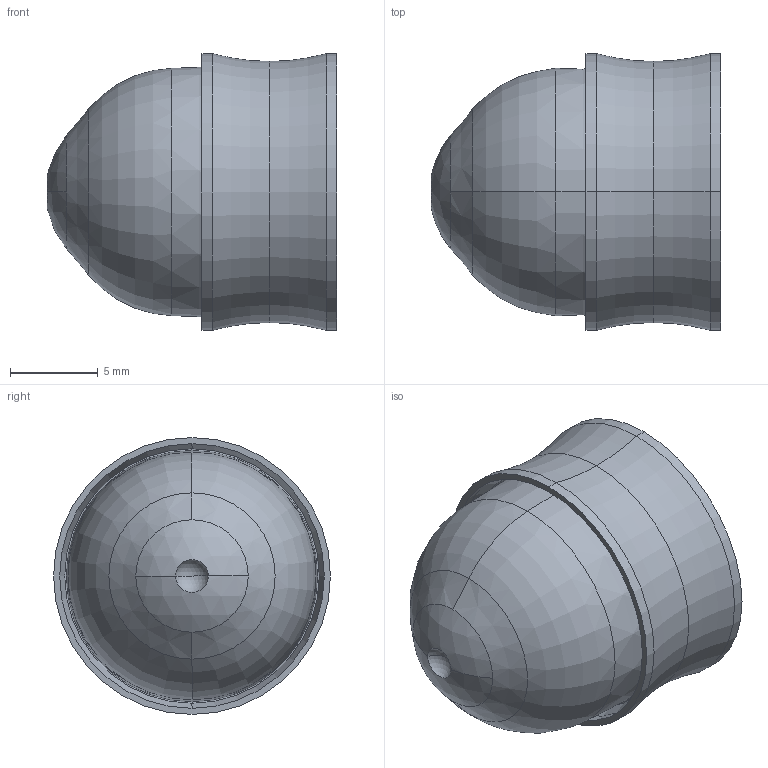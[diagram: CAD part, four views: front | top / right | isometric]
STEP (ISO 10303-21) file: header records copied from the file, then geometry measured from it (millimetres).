
FILE_DESCRIPTION (( 'STEP AP214' ), '1' );
FILE_NAME ('8001008.STEP', '2022-05-24T16:08:18', ( '' ), ( '' ), 'SwSTEP 2.0', 'SolidWorks 2020', '' );
FILE_SCHEMA (( 'AUTOMOTIVE_DESIGN' ));
Length unit declared in the file: millimetre
Products named in the file (1): 8001008
Bounding box: 16.54 x 15.82 x 15.82 mm (x, y, z)
Volume: 728.5 mm3; surface area: 1799.4 mm2
Topology: 1 solids, 1 shells, 65 faces, 160 edges, 100 vertices
Faces by surface type: plane 19, torus 12, cone 12, cylinder 12, sphere 10
Entity records: 2024 total; most frequent: CARTESIAN_POINT 406, DIRECTION 364, ORIENTED_EDGE 320, EDGE_CURVE 160, AXIS2_PLACEMENT_3D 154, VERTEX_POINT 100, CIRCLE 88, EDGE_LOOP 68
